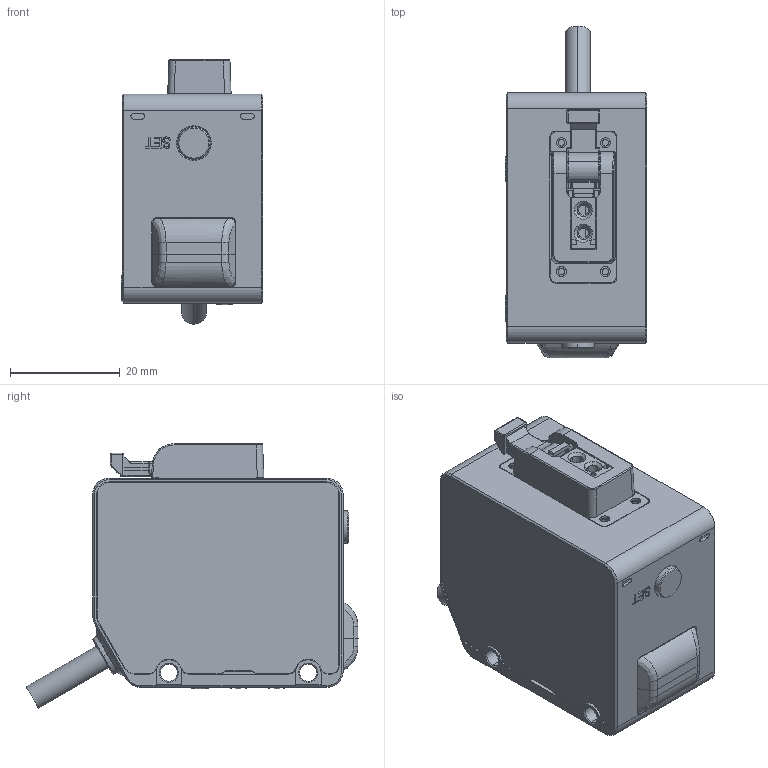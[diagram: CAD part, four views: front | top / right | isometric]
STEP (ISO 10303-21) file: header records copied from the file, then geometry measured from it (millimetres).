
FILE_DESCRIPTION((''),'2;1');
FILE_NAME('00_PW_DF10_ASM','2024-05-20T08:48:09',('Administrator'),(''),'CREO PARAMETRIC BY PTC INC, 2020154','CREO PARAMETRIC BY PTC INC, 2020154','');
FILE_SCHEMA(('AUTOMOTIVE_DESIGN { 1 0 10303 214 1 1 1 1 }'));
Length unit declared in the file: millimetre
Products named in the file (25): WDF231001-01-001_1_39; LED_PCB_BRACKET_ASM_4_ASM; LED_COVER_3; KEY_MATEL_13; C_CIRCLIP_1; O_RING_4; BUTTON_RESET_ASM_4_ASM; SILCON_RING_4; SENSOR_ALL_ASM_15_ASM; CGQ_17_000022_10_1_6; CGQ_17_000021_34_1_6; CGQ_24_000004_4_1_5; CGQ_17_000014_7_1_5; FIX_BRACKET_30; PRT0001_15; FIX_LIGHT-GUIDE_ASM_9_ASM; ADMI2CF08F146LDX_18_2_7; ADMI2CF08F146LDX_14_2_6; ADMI2CF08F146LDX_10_2_6; ADMI2CF08F146LDX_19_2_6; CABEL_ASM_6_ASM_7_ASM; PVC_3_5; LCD_PAEL_ASM_5_ASM; TOP_COVER_3; 00_PW_DF10_ASM
Assembly tree (24 placements, depth 4):
  00_PW_DF10_ASM
    SENSOR_ALL_ASM_15_ASM
      WDF231001-01-001_1_39
      LED_PCB_BRACKET_ASM_4_ASM
      LED_COVER_3
      BUTTON_RESET_ASM_4_ASM
        KEY_MATEL_13
        C_CIRCLIP_1
        O_RING_4
      SILCON_RING_4
    FIX_LIGHT-GUIDE_ASM_9_ASM
      CGQ_17_000022_10_1_6
      CGQ_17_000021_34_1_6
      CGQ_24_000004_4_1_5
      CGQ_17_000014_7_1_5
      FIX_BRACKET_30
      PRT0001_15
    CABEL_ASM_6_ASM_7_ASM
      ADMI2CF08F146LDX_18_2_7
      ADMI2CF08F146LDX_14_2_6
      ADMI2CF08F146LDX_10_2_6
      ADMI2CF08F146LDX_19_2_6
    LCD_PAEL_ASM_5_ASM
      PVC_3_5
    TOP_COVER_3
Bounding box: 25.9 x 60.58 x 48.22 mm (x, y, z)
Volume: 15304.4 mm3; surface area: 21479.6 mm2
Topology: 18 solids, 18 shells, 1407 faces, 3861 edges, 2514 vertices
Faces by surface type: plane 660, cylinder 490, cone 100, torus 58, bspline 43, sphere 30, extrusion 26
Entity records: 58668 total; most frequent: CARTESIAN_POINT 12271, ORIENTED_EDGE 7650, DIRECTION 7555, EDGE_CURVE 3825, AXIS2_PLACEMENT_3D 2660, VERTEX_POINT 2514, VECTOR 2235, LINE 2209
